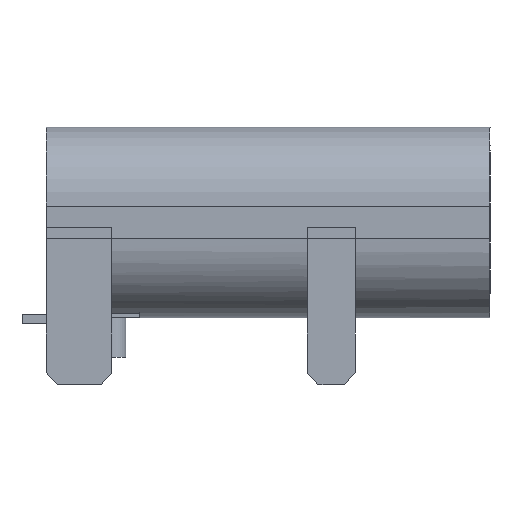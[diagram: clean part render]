
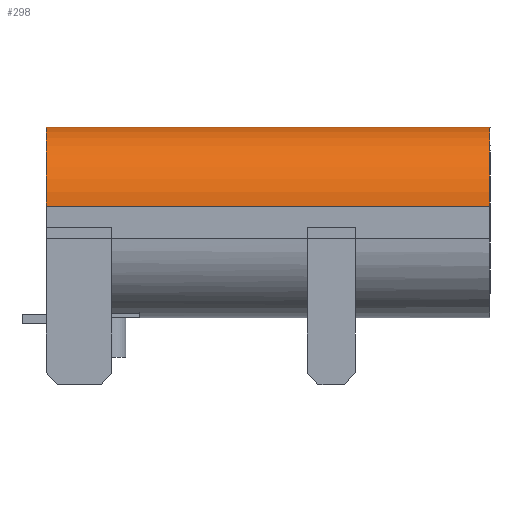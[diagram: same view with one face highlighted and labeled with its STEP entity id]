
A CAD part, left-side view. The second image highlights one B-rep face of the part: STEP entity #298.
In plain terms, the highlighted cylindrical face has radius 1.31 mm (diameter 2.62 mm), a partial arc.
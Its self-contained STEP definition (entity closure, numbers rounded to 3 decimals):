
#58 = PLANE('',#59);
#59 = AXIS2_PLACEMENT_3D('',#60,#61,#62);
#60 = CARTESIAN_POINT('',(-4.47,3.67,1.41));
#61 = DIRECTION('',(1.,-0.,-0.));
#62 = DIRECTION('',(0.,0.,-1.));
#83 = VERTEX_POINT('',#84);
#84 = CARTESIAN_POINT('',(-4.47,-3.68,1.95));
#98 = PLANE('',#99);
#99 = AXIS2_PLACEMENT_3D('',#100,#101,#102);
#100 = CARTESIAN_POINT('',(0.,-3.68,1.68));
#101 = DIRECTION('',(0.,1.,-0.));
#102 = DIRECTION('',(-1.,0.,0.));
#110 = EDGE_CURVE('',#111,#83,#113,.T.);
#111 = VERTEX_POINT('',#112);
#112 = CARTESIAN_POINT('',(-4.47,3.67,1.95));
#113 = SURFACE_CURVE('',#114,(#118,#125),.PCURVE_S1.);
#114 = LINE('',#115,#116);
#115 = CARTESIAN_POINT('',(-4.47,3.67,1.95));
#116 = VECTOR('',#117,1.);
#117 = DIRECTION('',(-0.,-1.,-0.));
#118 = PCURVE('',#58,#119);
#119 = DEFINITIONAL_REPRESENTATION('',(#120),#124);
#120 = LINE('',#121,#122);
#121 = CARTESIAN_POINT('',(-0.54,0.));
#122 = VECTOR('',#123,1.);
#123 = DIRECTION('',(-0.,-1.));
#124 = ( GEOMETRIC_REPRESENTATION_CONTEXT(2) 
PARAMETRIC_REPRESENTATION_CONTEXT() REPRESENTATION_CONTEXT('2D SPACE',''
  ) );
#125 = PCURVE('',#126,#131);
#126 = CYLINDRICAL_SURFACE('',#127,1.31);
#127 = AXIS2_PLACEMENT_3D('',#128,#129,#130);
#128 = CARTESIAN_POINT('',(-3.16,3.67,1.95));
#129 = DIRECTION('',(-0.,1.,-0.));
#130 = DIRECTION('',(-1.,-0.,0.));
#131 = DEFINITIONAL_REPRESENTATION('',(#132),#136);
#132 = LINE('',#133,#134);
#133 = CARTESIAN_POINT('',(0.,0.));
#134 = VECTOR('',#135,1.);
#135 = DIRECTION('',(0.,-1.));
#136 = ( GEOMETRIC_REPRESENTATION_CONTEXT(2) 
PARAMETRIC_REPRESENTATION_CONTEXT() REPRESENTATION_CONTEXT('2D SPACE',''
  ) );
#152 = PLANE('',#153);
#153 = AXIS2_PLACEMENT_3D('',#154,#155,#156);
#154 = CARTESIAN_POINT('',(0.,3.67,1.68));
#155 = DIRECTION('',(0.,1.,-0.));
#156 = DIRECTION('',(-1.,0.,0.));
#298 = ADVANCED_FACE('',(#299),#126,.T.);
#299 = FACE_BOUND('',#300,.T.);
#300 = EDGE_LOOP('',(#301,#302,#326,#354));
#301 = ORIENTED_EDGE('',*,*,#110,.T.);
#302 = ORIENTED_EDGE('',*,*,#303,.T.);
#303 = EDGE_CURVE('',#83,#304,#306,.T.);
#304 = VERTEX_POINT('',#305);
#305 = CARTESIAN_POINT('',(-3.16,-3.68,3.26));
#306 = SURFACE_CURVE('',#307,(#312,#319),.PCURVE_S1.);
#307 = CIRCLE('',#308,1.31);
#308 = AXIS2_PLACEMENT_3D('',#309,#310,#311);
#309 = CARTESIAN_POINT('',(-3.16,-3.68,1.95));
#310 = DIRECTION('',(0.,1.,0.));
#311 = DIRECTION('',(-1.,0.,-0.));
#312 = PCURVE('',#126,#313);
#313 = DEFINITIONAL_REPRESENTATION('',(#314),#318);
#314 = LINE('',#315,#316);
#315 = CARTESIAN_POINT('',(0.,-7.35));
#316 = VECTOR('',#317,1.);
#317 = DIRECTION('',(1.,0.));
#318 = ( GEOMETRIC_REPRESENTATION_CONTEXT(2) 
PARAMETRIC_REPRESENTATION_CONTEXT() REPRESENTATION_CONTEXT('2D SPACE',''
  ) );
#319 = PCURVE('',#98,#320);
#320 = DEFINITIONAL_REPRESENTATION('',(#321),#325);
#321 = CIRCLE('',#322,1.31);
#322 = AXIS2_PLACEMENT_2D('',#323,#324);
#323 = CARTESIAN_POINT('',(3.16,0.27));
#324 = DIRECTION('',(1.,-0.));
#325 = ( GEOMETRIC_REPRESENTATION_CONTEXT(2) 
PARAMETRIC_REPRESENTATION_CONTEXT() REPRESENTATION_CONTEXT('2D SPACE',''
  ) );
#326 = ORIENTED_EDGE('',*,*,#327,.F.);
#327 = EDGE_CURVE('',#328,#304,#330,.T.);
#328 = VERTEX_POINT('',#329);
#329 = CARTESIAN_POINT('',(-3.16,3.67,3.26));
#330 = SURFACE_CURVE('',#331,(#335,#342),.PCURVE_S1.);
#331 = LINE('',#332,#333);
#332 = CARTESIAN_POINT('',(-3.16,3.67,3.26));
#333 = VECTOR('',#334,1.);
#334 = DIRECTION('',(-0.,-1.,-0.));
#335 = PCURVE('',#126,#336);
#336 = DEFINITIONAL_REPRESENTATION('',(#337),#341);
#337 = LINE('',#338,#339);
#338 = CARTESIAN_POINT('',(1.571,0.));
#339 = VECTOR('',#340,1.);
#340 = DIRECTION('',(0.,-1.));
#341 = ( GEOMETRIC_REPRESENTATION_CONTEXT(2) 
PARAMETRIC_REPRESENTATION_CONTEXT() REPRESENTATION_CONTEXT('2D SPACE',''
  ) );
#342 = PCURVE('',#343,#348);
#343 = PLANE('',#344);
#344 = AXIS2_PLACEMENT_3D('',#345,#346,#347);
#345 = CARTESIAN_POINT('',(-3.16,3.67,3.26));
#346 = DIRECTION('',(0.,-0.,-1.));
#347 = DIRECTION('',(-1.,0.,0.));
#348 = DEFINITIONAL_REPRESENTATION('',(#349),#353);
#349 = LINE('',#350,#351);
#350 = CARTESIAN_POINT('',(-0.,0.));
#351 = VECTOR('',#352,1.);
#352 = DIRECTION('',(-0.,-1.));
#353 = ( GEOMETRIC_REPRESENTATION_CONTEXT(2) 
PARAMETRIC_REPRESENTATION_CONTEXT() REPRESENTATION_CONTEXT('2D SPACE',''
  ) );
#354 = ORIENTED_EDGE('',*,*,#355,.F.);
#355 = EDGE_CURVE('',#111,#328,#356,.T.);
#356 = SURFACE_CURVE('',#357,(#362,#369),.PCURVE_S1.);
#357 = CIRCLE('',#358,1.31);
#358 = AXIS2_PLACEMENT_3D('',#359,#360,#361);
#359 = CARTESIAN_POINT('',(-3.16,3.67,1.95));
#360 = DIRECTION('',(0.,1.,0.));
#361 = DIRECTION('',(-1.,0.,-0.));
#362 = PCURVE('',#126,#363);
#363 = DEFINITIONAL_REPRESENTATION('',(#364),#368);
#364 = LINE('',#365,#366);
#365 = CARTESIAN_POINT('',(0.,0.));
#366 = VECTOR('',#367,1.);
#367 = DIRECTION('',(1.,0.));
#368 = ( GEOMETRIC_REPRESENTATION_CONTEXT(2) 
PARAMETRIC_REPRESENTATION_CONTEXT() REPRESENTATION_CONTEXT('2D SPACE',''
  ) );
#369 = PCURVE('',#152,#370);
#370 = DEFINITIONAL_REPRESENTATION('',(#371),#375);
#371 = CIRCLE('',#372,1.31);
#372 = AXIS2_PLACEMENT_2D('',#373,#374);
#373 = CARTESIAN_POINT('',(3.16,0.27));
#374 = DIRECTION('',(1.,-0.));
#375 = ( GEOMETRIC_REPRESENTATION_CONTEXT(2) 
PARAMETRIC_REPRESENTATION_CONTEXT() REPRESENTATION_CONTEXT('2D SPACE',''
  ) );
